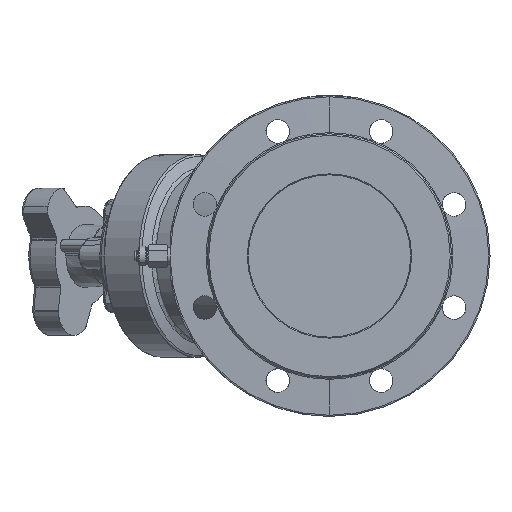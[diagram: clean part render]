
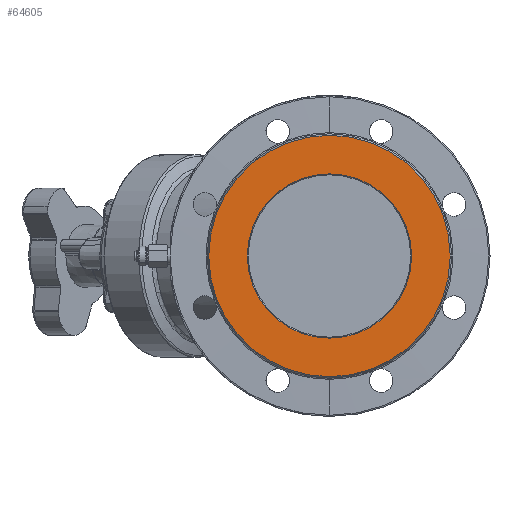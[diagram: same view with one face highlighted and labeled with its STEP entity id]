
A CAD part, left-side view. The second image highlights one B-rep face of the part: STEP entity #64605.
In plain terms, the highlighted planar face has unit normal (-1, 0, 0).
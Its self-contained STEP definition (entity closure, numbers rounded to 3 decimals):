
#1377 = EDGE_CURVE ( 'NONE', #60056, #9521, #53569, .T. ) ;
#2132 = DIRECTION ( 'NONE',  ( 1., 0., 0. ) ) ;
#7436 = CIRCLE ( 'NONE', #23138, 94. ) ;
#8850 = DIRECTION ( 'NONE',  ( 0., 0., 1. ) ) ;
#9521 = VERTEX_POINT ( 'NONE', #26135 ) ;
#11195 = ORIENTED_EDGE ( 'NONE', *, *, #44107, .T. ) ;
#11268 = AXIS2_PLACEMENT_3D ( 'NONE', #59226, #2132, #8850 ) ;
#12979 = CARTESIAN_POINT ( 'NONE',  ( -100., 0., 63.943 ) ) ;
#14086 = AXIS2_PLACEMENT_3D ( 'NONE', #30065, #62454, #68669 ) ;
#17517 = DIRECTION ( 'NONE',  ( 0., 0., 1. ) ) ;
#23138 = AXIS2_PLACEMENT_3D ( 'NONE', #57159, #25251, #32283 ) ;
#24012 = EDGE_CURVE ( 'NONE', #45139, #76974, #25377, .T. ) ;
#25014 = DIRECTION ( 'NONE',  ( -1., 0., 0. ) ) ;
#25251 = DIRECTION ( 'NONE',  ( -1., 0., 0. ) ) ;
#25289 = CARTESIAN_POINT ( 'NONE',  ( -100., 112.557, 0. ) ) ;
#25377 = CIRCLE ( 'NONE', #11268, 63.943 ) ;
#26135 = CARTESIAN_POINT ( 'NONE',  ( -100., 0., 94. ) ) ;
#30065 = CARTESIAN_POINT ( 'NONE',  ( -100., 0., 0. ) ) ;
#30661 = EDGE_CURVE ( 'NONE', #76974, #45139, #75527, .T. ) ;
#32283 = DIRECTION ( 'NONE',  ( 0., 0., 1. ) ) ;
#32509 = ORIENTED_EDGE ( 'NONE', *, *, #1377, .T. ) ;
#32755 = ORIENTED_EDGE ( 'NONE', *, *, #30661, .T. ) ;
#44107 = EDGE_CURVE ( 'NONE', #9521, #60056, #7436, .T. ) ;
#45139 = VERTEX_POINT ( 'NONE', #56630 ) ;
#47525 = AXIS2_PLACEMENT_3D ( 'NONE', #25289, #25014, #83018 ) ;
#48845 = CARTESIAN_POINT ( 'NONE',  ( -100., 0., 0. ) ) ;
#52045 = AXIS2_PLACEMENT_3D ( 'NONE', #48845, #55858, #17517 ) ;
#53569 = CIRCLE ( 'NONE', #14086, 94. ) ;
#55079 = ORIENTED_EDGE ( 'NONE', *, *, #24012, .T. ) ;
#55858 = DIRECTION ( 'NONE',  ( 1., 0., 0. ) ) ;
#56630 = CARTESIAN_POINT ( 'NONE',  ( -100., 0., -63.943 ) ) ;
#56915 = PLANE ( 'NONE',  #47525 ) ;
#57159 = CARTESIAN_POINT ( 'NONE',  ( -100., 0., 0. ) ) ;
#59226 = CARTESIAN_POINT ( 'NONE',  ( -100., 0., 0. ) ) ;
#60016 = FACE_BOUND ( 'NONE', #81653, .T. ) ;
#60056 = VERTEX_POINT ( 'NONE', #76967 ) ;
#62454 = DIRECTION ( 'NONE',  ( -1., 0., 0. ) ) ;
#64605 = ADVANCED_FACE ( 'NONE', ( #71099, #60016 ), #56915, .T. ) ;
#68669 = DIRECTION ( 'NONE',  ( 0., 0., 1. ) ) ;
#70970 = EDGE_LOOP ( 'NONE', ( #32509, #11195 ) ) ;
#71099 = FACE_OUTER_BOUND ( 'NONE', #70970, .T. ) ;
#75527 = CIRCLE ( 'NONE', #52045, 63.943 ) ;
#76967 = CARTESIAN_POINT ( 'NONE',  ( -100., 0., -94. ) ) ;
#76974 = VERTEX_POINT ( 'NONE', #12979 ) ;
#81653 = EDGE_LOOP ( 'NONE', ( #32755, #55079 ) ) ;
#83018 = DIRECTION ( 'NONE',  ( 0., 0., 1. ) ) ;
